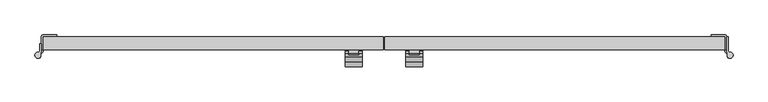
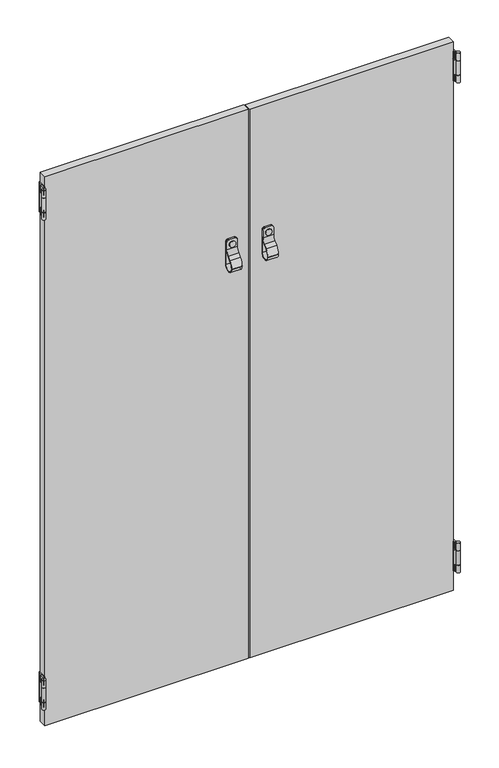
"""IFC4 building model written with IfcOpenShell, lengths in millimetres: furniture geometry, SmithSystem_AM_Storage_Education_Constellate_Stacking_DoubleMidCluster : Upper Cubbies + Lower Cubbies."""

from ifc_helpers import new_model, si_unit, point, frame, frame_2d, origin, place, context, project, spatial, polyline, circle_curve, trimmed, segment, composite_curve, outline, extrude, source, transform, mapped, element, save
from ifc_brep_helpers import plane_surface, cylinder_surface, revolved_surface, advanced_brep


def furniture_b4e8a946(model_context):
    return source(origin(), model_context, "Body", "SolidModel", [
        advanced_brep(
        [(-57.15, -247.65, 1098.55), (-31.75, -247.65, 1098.55), (-31.75, -247.65, 1138.1907684), (-57.15, -247.65, 1138.1907684), (-31.75, -245.11, 1098.55), (-57.15, -245.11, 1098.55), (-57.15, -245.11, 1156.97), (-52.07, -245.11, 1162.05), (-36.83, -245.11, 1162.05), (-31.75, -245.11, 1156.97), (-57.15, -267.97, 1099.4589755), (-31.75, -267.97, 1099.4589755), (-31.75, -267.97, 1098.55), (-57.15, -267.97, 1098.55), (-31.75, -270.51, 1099.4589755), (-57.15, -270.51, 1099.4589755), (-57.15, -270.51, 1098.55), (-31.75, -270.51, 1098.55), (-31.75, -247.65, 1156.97), (-31.75, -250.19, 1156.97), (-31.75, -250.19, 1138.1907684), (-31.75, -255.7696158, 1124.7203842), (-31.75, -263.0705122, 1117.4194878), (-31.75, -261.274461, 1115.6234365), (-31.75, -253.9735646, 1122.924333), (-57.15, -250.19, 1156.97), (-57.15, -247.65, 1156.97), (-57.15, -263.0705122, 1117.4194878), (-57.15, -255.7696158, 1124.7203842), (-57.15, -250.19, 1138.1907684), (-57.15, -253.9735646, 1122.924333), (-57.15, -261.274461, 1115.6234365), (-36.83, -250.19, 1162.05), (-52.07, -250.19, 1162.05), (-36.83, -247.65, 1162.05), (-52.07, -247.65, 1162.05)],
        [
            (0, 1),
            (1, 2),
            (2, 3),
            (3, 0),
            (4, 5),
            (5, 6),
            (6, 7, circle_curve(frame((-52.07, -245.11, 1156.97), z_axis=(0.0, 1.0, 0.0), x_axis=(1.0, 0.0, 0.0)), 5.08)),
            (7, 8),
            (8, 9, circle_curve(frame((-36.83, -245.11, 1156.97), z_axis=(0.0, 1.0, 0.0), x_axis=(1.0, 0.0, 0.0)), 5.08)),
            (9, 4),
            (10, 11),
            (11, 12),
            (12, 13),
            (13, 10),
            (14, 15),
            (15, 16),
            (16, 17),
            (17, 14),
            (0, 13, circle_curve(frame((-57.15, -257.81, 1098.55), z_axis=(-1.0, 0.0, 0.0), x_axis=(0.0, -1.0, 0.0)), 10.16)),
            (12, 1, circle_curve(frame((-31.75, -257.81, 1098.55), z_axis=(1.0, 0.0, 0.0), x_axis=(0.0, -1.0, 0.0)), 10.16)),
            (4, 17, circle_curve(frame((-31.75, -257.81, 1098.55), z_axis=(-1.0, 0.0, 0.0), x_axis=(0.0, -1.0, 0.0)), 12.7)),
            (16, 5, circle_curve(frame((-57.15, -257.81, 1098.55), z_axis=(1.0, 0.0, 0.0), x_axis=(0.0, -1.0, 0.0)), 12.7)),
            (9, 18),
            (18, 19),
            (19, 20),
            (20, 21, circle_curve(frame((-31.75, -269.24, 1138.1907684), z_axis=(-1.0, 0.0, 0.0), x_axis=(0.0, 1.0, 0.0)), 19.05)),
            (21, 22),
            (22, 14, circle_curve(frame((-31.75, -245.11, 1099.4589755), z_axis=(1.0, 0.0, 0.0), x_axis=(0.0, -0.7071067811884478, 0.7071067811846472)), 25.4)),
            (11, 23, circle_curve(frame((-31.75, -245.11, 1099.4589755), z_axis=(-1.0, 0.0, 0.0), x_axis=(0.0, -0.7071067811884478, 0.7071067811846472)), 22.86)),
            (23, 24),
            (24, 2, circle_curve(frame((-31.75, -269.24, 1138.1907684), z_axis=(1.0, 0.0, 0.0), x_axis=(0.0, 1.0, 0.0)), 21.59)),
            (25, 26),
            (26, 6),
            (15, 27, circle_curve(frame((-57.15, -245.11, 1099.4589755), z_axis=(-1.0, 0.0, 0.0), x_axis=(0.0, -0.7071067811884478, 0.7071067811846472)), 25.4)),
            (27, 28),
            (28, 29, circle_curve(frame((-57.15, -269.24, 1138.1907684), z_axis=(1.0, 0.0, 0.0), x_axis=(0.0, 1.0, 0.0)), 19.05)),
            (29, 25),
            (3, 30, circle_curve(frame((-57.15, -269.24, 1138.1907684), z_axis=(-1.0, 0.0, 0.0), x_axis=(0.0, 1.0, 0.0)), 21.59)),
            (30, 31),
            (31, 10, circle_curve(frame((-57.15, -245.11, 1099.4589755), z_axis=(1.0, 0.0, 0.0), x_axis=(0.0, -0.7071067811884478, 0.7071067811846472)), 22.86)),
            (29, 20),
            (19, 32, circle_curve(frame((-36.83, -250.19, 1156.97), z_axis=(0.0, -1.0, 0.0), x_axis=(1.0, 0.0, 0.0)), 5.08)),
            (32, 33),
            (33, 25, circle_curve(frame((-52.07, -250.19, 1156.97), z_axis=(0.0, -1.0, 0.0), x_axis=(1.0, 0.0, 0.0)), 5.08)),
            (24, 30),
            (28, 21),
            (23, 31),
            (27, 22),
            (18, 34, circle_curve(frame((-36.83, -247.65, 1156.97), z_axis=(0.0, -1.0, 0.0), x_axis=(1.0, 0.0, 0.0)), 5.08)),
            (34, 32),
            (34, 8),
            (7, 35),
            (35, 33),
            (35, 26, circle_curve(frame((-52.07, -247.65, 1156.97), z_axis=(0.0, -1.0, 0.0), x_axis=(1.0, 0.0, 0.0)), 5.08)),
        ],
        [
            plane_surface(frame((-31.75, -247.65, 1098.55), z_axis=(0.0, -1.0, 0.0), x_axis=(0.0, 0.0, 1.0))),
            plane_surface(frame((-57.15, -245.11, 1098.55), z_axis=(0.0, 1.0, 0.0), x_axis=(0.0, 0.0, 1.0))),
            plane_surface(frame((-31.75, -267.97, 1099.4589755), z_axis=(0.0, 1.0, 0.0), x_axis=(0.0, 0.0, -1.0))),
            plane_surface(frame((-57.15, -270.51, 1099.4589755), z_axis=(0.0, -1.0, 0.0), x_axis=(0.0, 0.0, -1.0))),
            revolved_surface(polyline([(-31.75, -267.97, 1098.55), (-57.15, -267.97, 1098.55)]), (0.0, -257.81, 1098.55), (1.0, 0.0, 0.0)),
            cylinder_surface(frame((0.0, -257.81, 1098.55), z_axis=(1.0, 0.0, 0.0), x_axis=(0.0, -1.0, 0.0)), 12.7),
            plane_surface(frame((-31.75, -250.19, 1149.35), z_axis=(1.0, 0.0, 0.0), x_axis=(0.0, 0.0, -1.0))),
            plane_surface(frame((-57.15, -247.65, 1149.35), z_axis=(-1.0, 0.0, 0.0), x_axis=(0.0, 0.0, -1.0))),
            plane_surface(frame((-57.15, -250.19, 1149.35), z_axis=(0.0, -1.0, 0.0), x_axis=(0.0, 0.0, -1.0))),
            cylinder_surface(frame((0.0, -269.24, 1138.1907684), z_axis=(-1.0, 0.0, 0.0), x_axis=(0.0, 1.0, 0.0)), 21.59),
            revolved_surface(polyline([(-57.15, -250.19, 1138.1907684), (-31.75, -250.19, 1138.1907684)]), (0.0, -269.24, 1138.1907684), (-1.0, 0.0, 0.0)),
            plane_surface(frame((-31.75, -253.9735646, 1122.924333), z_axis=(0.0, 0.7071067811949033, -0.7071067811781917), x_axis=(0.0, -0.7071067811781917, -0.7071067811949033))),
            plane_surface(frame((-57.15, -255.7696158, 1124.7203842), z_axis=(0.0, -0.7071067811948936, 0.7071067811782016), x_axis=(0.0, -0.7071067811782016, -0.7071067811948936))),
            revolved_surface(polyline([(-31.75, -261.27446101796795, 1115.623436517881), (-57.15, -261.27446101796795, 1115.623436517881)]), (0.0, -245.11, 1099.4589755), (1.0, 0.0, 0.0)),
            cylinder_surface(frame((0.0, -245.11, 1099.4589755), z_axis=(1.0, 0.0, 0.0), x_axis=(0.0, -0.7071067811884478, 0.7071067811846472)), 25.4),
            cylinder_surface(frame((-36.83, -245.11, 1156.97), z_axis=(0.0, -1.0, 0.0), x_axis=(1.0, 0.0, 0.0)), 5.08),
            plane_surface(frame((-36.83, -250.19, 1162.05), z_axis=(1.0835776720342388e-12, 0.0, 1.0), x_axis=(0.0, 1.0, 0.0))),
            cylinder_surface(frame((-52.07, -245.11, 1156.97), z_axis=(0.0, -1.0, 0.0), x_axis=(1.0, 0.0, 0.0)), 5.08),
        ],
        [
            (0, [[1, 2, 3, 4]]),
            (1, [[5, 6, 7, 8, 9, 10]]),
            (2, [[11, 12, 13, 14]]),
            (3, [[15, 16, 17, 18]]),
            (4, [[-1, 19, -13, 20]]),
            (5, [[-5, 21, -17, 22]]),
            (6, [[-10, 23, 24, 25, 26, 27, 28, -18, -21], [-2, -20, -12, 29, 30, 31]]),
            (7, [[32, 33, -6, -22, -16, 34, 35, 36, 37], [-4, 38, 39, 40, -14, -19]]),
            (8, [[41, -25, 42, 43, 44, -37]]),
            (9, [[-31, 45, -38, -3]]),
            (10, [[-26, -41, -36, 46]]),
            (11, [[-30, 47, -39, -45]]),
            (12, [[-27, -46, -35, 48]]),
            (13, [[-11, -40, -47, -29]]),
            (14, [[-15, -28, -48, -34]]),
            (15, [[-42, -24, 49, 50]]),
            (16, [[-43, -50, 51, -8, 52, 53]]),
            (17, [[-44, -53, 54, -32]]),
            (15, [[-9, -51, -49, -23]]),
            (17, [[-7, -33, -54, -52]]),
        ],
    ),
        advanced_brep(
        [(57.15, -247.65, 1138.1907684), (31.75, -247.65, 1138.1907684), (31.75, -247.65, 1098.55), (57.15, -247.65, 1098.55), (31.75, -245.11, 1156.97), (36.83, -245.11, 1162.05), (52.07, -245.11, 1162.05), (57.15, -245.11, 1156.97), (57.15, -245.11, 1098.55), (31.75, -245.11, 1098.55), (31.75, -267.97, 1099.4589755), (57.15, -267.97, 1099.4589755), (57.15, -267.97, 1098.55), (31.75, -267.97, 1098.55), (57.15, -270.51, 1099.4589755), (31.75, -270.51, 1099.4589755), (31.75, -270.51, 1098.55), (57.15, -270.51, 1098.55), (31.75, -250.19, 1138.1907684), (57.15, -250.19, 1138.1907684), (57.15, -250.19, 1156.97), (52.07, -250.19, 1162.05), (36.83, -250.19, 1162.05), (31.75, -250.19, 1156.97), (57.15, -247.65, 1156.97), (57.15, -255.7696158, 1124.7203842), (57.15, -263.0705122, 1117.4194878), (57.15, -261.274461, 1115.6234365), (57.15, -253.9735646, 1122.924333), (31.75, -247.65, 1156.97), (31.75, -263.0705122, 1117.4194878), (31.75, -255.7696158, 1124.7203842), (31.75, -253.9735646, 1122.924333), (31.75, -261.274461, 1115.6234365), (52.07, -247.65, 1162.05), (36.83, -247.65, 1162.05)],
        [
            (0, 1),
            (1, 2),
            (2, 3),
            (3, 0),
            (4, 5, circle_curve(frame((36.83, -245.11, 1156.97), z_axis=(0.0, 1.0, 0.0), x_axis=(1.0, 0.0, 0.0)), 5.08)),
            (5, 6),
            (6, 7, circle_curve(frame((52.07, -245.11, 1156.97), z_axis=(0.0, 1.0, 0.0), x_axis=(1.0, 0.0, 0.0)), 5.08)),
            (7, 8),
            (8, 9),
            (9, 4),
            (10, 11),
            (11, 12),
            (12, 13),
            (13, 10),
            (14, 15),
            (15, 16),
            (16, 17),
            (17, 14),
            (2, 13, circle_curve(frame((31.75, -257.81, 1098.55), z_axis=(-1.0, 0.0, 0.0), x_axis=(0.0, -1.0, 0.0)), 10.16)),
            (12, 3, circle_curve(frame((57.15, -257.81, 1098.55), z_axis=(1.0, 0.0, 0.0), x_axis=(0.0, -1.0, 0.0)), 10.16)),
            (8, 17, circle_curve(frame((57.15, -257.81, 1098.55), z_axis=(-1.0, 0.0, 0.0), x_axis=(0.0, -1.0, 0.0)), 12.7)),
            (16, 9, circle_curve(frame((31.75, -257.81, 1098.55), z_axis=(1.0, 0.0, 0.0), x_axis=(0.0, -1.0, 0.0)), 12.7)),
            (18, 19),
            (19, 20),
            (20, 21, circle_curve(frame((52.07, -250.19, 1156.97), z_axis=(0.0, -1.0, 0.0), x_axis=(1.0, 0.0, 0.0)), 5.08)),
            (21, 22),
            (22, 23, circle_curve(frame((36.83, -250.19, 1156.97), z_axis=(0.0, -1.0, 0.0), x_axis=(1.0, 0.0, 0.0)), 5.08)),
            (23, 18),
            (7, 24),
            (24, 20),
            (19, 25, circle_curve(frame((57.15, -269.24, 1138.1907684), z_axis=(-1.0, 0.0, 0.0), x_axis=(0.0, 1.0, 0.0)), 19.05)),
            (25, 26),
            (26, 14, circle_curve(frame((57.15, -245.11, 1099.4589755), z_axis=(1.0, 0.0, 0.0), x_axis=(0.0, -0.7071067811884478, 0.7071067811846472)), 25.4)),
            (11, 27, circle_curve(frame((57.15, -245.11, 1099.4589755), z_axis=(-1.0, 0.0, 0.0), x_axis=(0.0, -0.7071067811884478, 0.7071067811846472)), 22.86)),
            (27, 28),
            (28, 0, circle_curve(frame((57.15, -269.24, 1138.1907684), z_axis=(1.0, 0.0, 0.0), x_axis=(0.0, 1.0, 0.0)), 21.59)),
            (23, 29),
            (29, 4),
            (15, 30, circle_curve(frame((31.75, -245.11, 1099.4589755), z_axis=(-1.0, 0.0, 0.0), x_axis=(0.0, -0.7071067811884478, 0.7071067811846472)), 25.4)),
            (30, 31),
            (31, 18, circle_curve(frame((31.75, -269.24, 1138.1907684), z_axis=(1.0, 0.0, 0.0), x_axis=(0.0, 1.0, 0.0)), 19.05)),
            (1, 32, circle_curve(frame((31.75, -269.24, 1138.1907684), z_axis=(-1.0, 0.0, 0.0), x_axis=(0.0, 1.0, 0.0)), 21.59)),
            (32, 33),
            (33, 10, circle_curve(frame((31.75, -245.11, 1099.4589755), z_axis=(1.0, 0.0, 0.0), x_axis=(0.0, -0.7071067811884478, 0.7071067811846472)), 22.86)),
            (28, 32),
            (31, 25),
            (27, 33),
            (30, 26),
            (21, 34),
            (34, 6),
            (5, 35),
            (35, 22),
            (35, 29, circle_curve(frame((36.83, -247.65, 1156.97), z_axis=(0.0, -1.0, 0.0), x_axis=(1.0, 0.0, 0.0)), 5.08)),
            (24, 34, circle_curve(frame((52.07, -247.65, 1156.97), z_axis=(0.0, -1.0, 0.0), x_axis=(1.0, 0.0, 0.0)), 5.08)),
        ],
        [
            plane_surface(frame((-31.75, -247.65, 1098.55), z_axis=(0.0, -1.0, 0.0), x_axis=(0.0, 0.0, 1.0))),
            plane_surface(frame((-57.15, -245.11, 1098.55), z_axis=(0.0, 1.0, 0.0), x_axis=(0.0, 0.0, 1.0))),
            plane_surface(frame((57.15, -267.97, 1099.4589755), z_axis=(0.0, 1.0, 0.0), x_axis=(0.0, 0.0, -1.0))),
            plane_surface(frame((31.75, -270.51, 1099.4589755), z_axis=(0.0, -1.0, 0.0), x_axis=(0.0, 0.0, -1.0))),
            revolved_surface(polyline([(57.15, -267.97, 1098.55), (31.75, -267.97, 1098.55)]), (0.0, -257.81, 1098.55), (1.0, 0.0, 0.0)),
            cylinder_surface(frame((0.0, -257.81, 1098.55), z_axis=(1.0, 0.0, 0.0), x_axis=(0.0, -1.0, 0.0)), 12.7),
            plane_surface(frame((-57.15, -250.19, 1149.35), z_axis=(0.0, -1.0, 0.0), x_axis=(0.0, 0.0, -1.0))),
            plane_surface(frame((57.15, -250.19, 1149.35), z_axis=(1.0, 0.0, 0.0), x_axis=(0.0, 0.0, -1.0))),
            plane_surface(frame((31.75, -247.65, 1149.35), z_axis=(-1.0, 0.0, 0.0), x_axis=(0.0, 0.0, -1.0))),
            cylinder_surface(frame((0.0, -269.24, 1138.1907684), z_axis=(-1.0, 0.0, 0.0), x_axis=(0.0, 1.0, 0.0)), 21.59),
            revolved_surface(polyline([(31.75, -250.19, 1138.1907684), (57.15, -250.19, 1138.1907684)]), (0.0, -269.24, 1138.1907684), (-1.0, 0.0, 0.0)),
            plane_surface(frame((57.15, -253.9735646, 1122.924333), z_axis=(0.0, 0.7071067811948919, -0.7071067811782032), x_axis=(0.0, -0.7071067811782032, -0.7071067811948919))),
            plane_surface(frame((31.75, -255.7696158, 1124.7203842), z_axis=(0.0, -0.7071067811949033, 0.7071067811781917), x_axis=(0.0, -0.7071067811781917, -0.7071067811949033))),
            revolved_surface(polyline([(57.15, -261.27446101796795, 1115.623436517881), (31.75, -261.27446101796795, 1115.623436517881)]), (0.0, -245.11, 1099.4589755), (1.0, 0.0, 0.0)),
            cylinder_surface(frame((0.0, -245.11, 1099.4589755), z_axis=(1.0, 0.0, 0.0), x_axis=(0.0, -0.7071067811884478, 0.7071067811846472)), 25.4),
            plane_surface(frame((52.07, -250.19, 1162.05), z_axis=(0.0, 0.0, 1.0), x_axis=(0.0, 1.0, 0.0))),
            cylinder_surface(frame((36.83, -247.65, 1156.97), z_axis=(0.0, -1.0, 0.0), x_axis=(1.0, 0.0, 0.0)), 5.08),
            cylinder_surface(frame((52.07, -247.65, 1156.97), z_axis=(0.0, -1.0, 0.0), x_axis=(1.0, 0.0, 0.0)), 5.08),
            cylinder_surface(frame((52.07, -245.11, 1156.97), z_axis=(0.0, -1.0, 0.0), x_axis=(1.0, 0.0, 0.0)), 5.08),
            cylinder_surface(frame((36.83, -245.11, 1156.97), z_axis=(0.0, -1.0, 0.0), x_axis=(1.0, 0.0, 0.0)), 5.08),
        ],
        [
            (0, [[1, 2, 3, 4]]),
            (1, [[5, 6, 7, 8, 9, 10]]),
            (2, [[11, 12, 13, 14]]),
            (3, [[15, 16, 17, 18]]),
            (4, [[-3, 19, -13, 20]]),
            (5, [[-9, 21, -17, 22]]),
            (6, [[23, 24, 25, 26, 27, 28]]),
            (7, [[-8, 29, 30, -24, 31, 32, 33, -18, -21], [-4, -20, -12, 34, 35, 36]]),
            (8, [[37, 38, -10, -22, -16, 39, 40, 41, -28], [-2, 42, 43, 44, -14, -19]]),
            (9, [[-36, 45, -42, -1]]),
            (10, [[-31, -23, -41, 46]]),
            (11, [[-35, 47, -43, -45]]),
            (12, [[-32, -46, -40, 48]]),
            (13, [[-11, -44, -47, -34]]),
            (14, [[-15, -33, -48, -39]]),
            (15, [[-26, 49, 50, -6, 51, 52]]),
            (16, [[-27, -52, 53, -37]]),
            (17, [[-25, -30, 54, -49]]),
            (18, [[-7, -50, -54, -29]]),
            (19, [[-5, -38, -53, -51]]),
        ],
    ),
        advanced_brep(
        [(-505.46, -247.65, 1377.95), (-505.46, -236.22, 1377.95), (-502.92, -236.22, 1377.95), (-502.92, -247.65, 1377.95), (-504.444, -250.698, 1377.95), (-508.0, -248.92, 1377.95), (-506.73, -248.92, 1377.95), (-505.46, -247.65, 1397.0), (-506.73, -248.92, 1397.0), (-508.0, -248.92, 1397.0), (-504.444, -250.698, 1397.0), (-502.92, -247.65, 1397.0), (-502.92, -236.22, 1397.0), (-505.46, -236.22, 1397.0)],
        [
            (0, 1),
            (1, 2),
            (2, 3),
            (3, 4, circle_curve(frame((-506.73, -247.65, 1377.95), z_axis=(0.0, 0.0, -1.0), x_axis=(0.0, 1.0, 0.0)), 3.81)),
            (4, 5, circle_curve(frame((-508.0, -253.365, 1377.95), z_axis=(0.0, 0.0, -1.0), x_axis=(0.0, 1.0, 0.0)), 4.445)),
            (5, 6),
            (6, 0, circle_curve(frame((-506.73, -247.65, 1377.95), z_axis=(0.0, 0.0, 1.0), x_axis=(0.0, 1.0, 0.0)), 1.27)),
            (7, 8, circle_curve(frame((-506.73, -247.65, 1397.0), z_axis=(0.0, 0.0, -1.0), x_axis=(0.0, 1.0, 0.0)), 1.27)),
            (8, 9),
            (9, 10, circle_curve(frame((-508.0, -253.365, 1397.0), z_axis=(0.0, 0.0, 1.0), x_axis=(0.0, 1.0, 0.0)), 4.445)),
            (10, 11, circle_curve(frame((-506.73, -247.65, 1397.0), z_axis=(0.0, 0.0, 1.0), x_axis=(0.0, 1.0, 0.0)), 3.81)),
            (11, 12),
            (12, 13),
            (13, 7),
            (2, 12),
            (11, 3),
            (1, 13),
            (0, 7),
            (6, 8),
            (5, 9),
            (4, 10),
        ],
        [
            plane_surface(frame((-505.46, -236.22, 1377.95), z_axis=(0.0, 0.0, -1.0), x_axis=(0.0, 1.0, 0.0))),
            plane_surface(frame((-505.46, -236.22, 1397.0), z_axis=(0.0, 0.0, 1.0), x_axis=(0.0, -1.0, 0.0))),
            plane_surface(frame((-502.92, -236.22, 1377.95), z_axis=(1.0, 0.0, 0.0), x_axis=(0.0, 0.0, 1.0))),
            plane_surface(frame((-505.46, -236.22, 1377.95), z_axis=(0.0, 1.0, 0.0), x_axis=(0.0, 0.0, 1.0))),
            plane_surface(frame((-505.46, -247.65, 1377.95), z_axis=(-1.0, 0.0, 0.0), x_axis=(0.0, 0.0, 1.0))),
            revolved_surface(polyline([(-506.73, -246.38, 1397.0), (-506.73, -246.38, 1377.95)]), (-506.73, -247.65, 1397.0), (0.0, 0.0, 1.0)),
            plane_surface(frame((-508.0, -248.92, 1377.95), z_axis=(0.0, 1.0, 0.0), x_axis=(0.0, 0.0, 1.0))),
            cylinder_surface(frame((-508.0, -253.365, 1397.0), z_axis=(0.0, 0.0, -1.0), x_axis=(0.0, 1.0, 0.0)), 4.445),
            cylinder_surface(frame((-506.73, -247.65, 1397.0), z_axis=(0.0, 0.0, -1.0), x_axis=(0.0, 1.0, 0.0)), 3.81),
        ],
        [
            (0, [[1, 2, 3, 4, 5, 6, 7]]),
            (1, [[8, 9, 10, 11, 12, 13, 14]]),
            (2, [[-3, 15, -12, 16]]),
            (3, [[-2, 17, -13, -15]]),
            (4, [[-1, 18, -14, -17]]),
            (5, [[-7, 19, -8, -18]]),
            (6, [[-6, 20, -9, -19]]),
            (7, [[-5, 21, -10, -20]]),
            (8, [[-4, -16, -11, -21]]),
        ],
    ),
        advanced_brep(
        [(504.444, -250.698, 1377.95), (502.92, -247.65, 1377.95), (502.92, -226.06, 1377.95), (505.46, -226.06, 1377.95), (505.46, -247.65, 1377.95), (506.73, -248.92, 1377.95), (508.0, -248.92, 1377.95), (504.444, -250.698, 1397.0), (508.0, -248.92, 1397.0), (506.73, -248.92, 1397.0), (505.46, -247.65, 1397.0), (505.46, -245.11, 1397.0), (502.92, -245.11, 1397.0), (502.92, -247.65, 1397.0), (505.46, -226.06, 1454.15), (505.46, -247.65, 1454.15), (505.46, -247.65, 1435.1), (505.46, -245.11, 1435.1), (502.92, -245.11, 1435.1), (502.92, -247.65, 1435.1), (502.92, -247.65, 1454.15), (502.92, -226.06, 1454.15), (504.444, -250.698, 1454.15), (508.0, -248.92, 1454.15), (506.73, -248.92, 1454.15), (506.73, -248.92, 1435.1), (508.0, -248.92, 1435.1), (504.444, -250.698, 1435.1)],
        [
            (0, 1, circle_curve(frame((506.73, -247.65, 1377.95), z_axis=(0.0, 0.0, -1.0), x_axis=(0.0, 1.0, 0.0)), 3.81)),
            (1, 2),
            (2, 3),
            (3, 4),
            (4, 5, circle_curve(frame((506.73, -247.65, 1377.95), z_axis=(0.0, 0.0, 1.0), x_axis=(0.0, 1.0, 0.0)), 1.27)),
            (5, 6),
            (6, 0, circle_curve(frame((508.0, -253.365, 1377.95), z_axis=(0.0, 0.0, -1.0), x_axis=(0.0, 1.0, 0.0)), 4.445)),
            (7, 8, circle_curve(frame((508.0, -253.365, 1397.0), z_axis=(0.0, 0.0, 1.0), x_axis=(0.0, 1.0, 0.0)), 4.445)),
            (8, 9),
            (9, 10, circle_curve(frame((506.73, -247.65, 1397.0), z_axis=(0.0, 0.0, -1.0), x_axis=(0.0, 1.0, 0.0)), 1.27)),
            (10, 11),
            (11, 12),
            (12, 13),
            (13, 7, circle_curve(frame((506.73, -247.65, 1397.0), z_axis=(0.0, 0.0, 1.0), x_axis=(0.0, 1.0, 0.0)), 3.81)),
            (5, 9),
            (8, 6),
            (4, 10),
            (3, 14),
            (14, 15),
            (15, 16),
            (16, 17),
            (17, 11),
            (1, 13),
            (12, 18),
            (18, 19),
            (19, 20),
            (20, 21),
            (21, 2),
            (7, 0),
            (20, 22, circle_curve(frame((506.73, -247.65, 1454.15), z_axis=(0.0, 0.0, 1.0), x_axis=(0.0, 1.0, 0.0)), 3.81)),
            (22, 23, circle_curve(frame((508.0, -253.365, 1454.15), z_axis=(0.0, 0.0, 1.0), x_axis=(0.0, 1.0, 0.0)), 4.445)),
            (23, 24),
            (24, 15, circle_curve(frame((506.73, -247.65, 1454.15), z_axis=(0.0, 0.0, -1.0), x_axis=(0.0, 1.0, 0.0)), 1.27)),
            (14, 21),
            (16, 25, circle_curve(frame((506.73, -247.65, 1435.1), z_axis=(0.0, 0.0, 1.0), x_axis=(0.0, 1.0, 0.0)), 1.27)),
            (25, 26),
            (26, 27, circle_curve(frame((508.0, -253.365, 1435.1), z_axis=(0.0, 0.0, -1.0), x_axis=(0.0, 1.0, 0.0)), 4.445)),
            (27, 19, circle_curve(frame((506.73, -247.65, 1435.1), z_axis=(0.0, 0.0, -1.0), x_axis=(0.0, 1.0, 0.0)), 3.81)),
            (18, 17),
            (23, 26),
            (25, 24),
            (22, 27),
        ],
        [
            plane_surface(frame((-505.46, -236.22, 1377.95), z_axis=(0.0, 0.0, -1.0), x_axis=(0.0, 1.0, 0.0))),
            plane_surface(frame((-505.46, -236.22, 1397.0), z_axis=(0.0, 0.0, 1.0), x_axis=(0.0, -1.0, 0.0))),
            plane_surface(frame((506.73, -248.92, 1377.95), z_axis=(0.0, 1.0, 0.0), x_axis=(0.0, 0.0, 1.0))),
            revolved_surface(polyline([(506.73, -246.38, 1397.0), (506.73, -246.38, 1377.95)]), (506.73, -247.65, 1377.95), (0.0, 0.0, 1.0)),
            plane_surface(frame((505.46, -236.22, 1377.95), z_axis=(1.0, 0.0, 0.0), x_axis=(0.0, 0.0, 1.0))),
            plane_surface(frame((502.92, -247.65, 1377.95), z_axis=(-1.0, 0.0, 0.0), x_axis=(0.0, 0.0, 1.0))),
            cylinder_surface(frame((508.0, -253.365, 1377.95), z_axis=(0.0, 0.0, -1.0), x_axis=(0.0, 1.0, 0.0)), 4.445),
            plane_surface(frame((-508.0, -248.92, 1454.15), z_axis=(0.0, 0.0, 1.0), x_axis=(-1.0, 0.0, 0.0))),
            plane_surface(frame((-508.0, -248.92, 1435.1), z_axis=(0.0, 0.0, -1.0), x_axis=(1.0, 0.0, 0.0))),
            plane_surface(frame((506.73, -248.92, 1435.1), z_axis=(0.0, 1.0, 0.0), x_axis=(0.0, 0.0, 1.0))),
            revolved_surface(polyline([(506.73, -246.38, 1454.15), (506.73, -246.38, 1435.1)]), (506.73, -247.65, 1377.95), (0.0, 0.0, 1.0)),
            plane_surface(frame((505.46, -226.06, 1377.95), z_axis=(0.0, 1.0, 0.0), x_axis=(-1.0, 0.0, 0.0))),
            plane_surface(frame((505.46, -245.11, 1454.15), z_axis=(0.0, -1.0, 0.0), x_axis=(-1.0, 0.0, 0.0))),
            cylinder_surface(frame((506.73, -247.65, 1377.95), z_axis=(0.0, 0.0, -1.0), x_axis=(0.0, 1.0, 0.0)), 3.81),
        ],
        [
            (0, [[1, 2, 3, 4, 5, 6, 7]]),
            (1, [[8, 9, 10, 11, 12, 13, 14]]),
            (2, [[-6, 15, -9, 16]]),
            (3, [[-5, 17, -10, -15]]),
            (4, [[-17, -4, 18, 19, 20, 21, 22, -11]]),
            (5, [[-2, 23, -13, 24, 25, 26, 27, 28]]),
            (6, [[-7, -16, -8, 29]]),
            (7, [[-27, 30, 31, 32, 33, -19, 34]]),
            (8, [[35, 36, 37, 38, -25, 39, -21]]),
            (9, [[-32, 40, -36, 41]]),
            (10, [[-33, -41, -35, -20]]),
            (6, [[-31, 42, -37, -40]]),
            (11, [[-28, -34, -18, -3]]),
            (12, [[-24, -12, -22, -39]]),
            (13, [[-30, -26, -38, -42]]),
            (13, [[-1, -29, -14, -23]]),
        ],
    ),
        advanced_brep(
        [(505.46, -226.06, 107.95), (505.46, -226.06, 184.15), (505.46, -247.65, 184.15), (505.46, -247.65, 165.1), (505.46, -245.11, 165.1), (505.46, -245.11, 127.0), (505.46, -247.65, 127.0), (505.46, -247.65, 107.95), (502.92, -226.06, 184.15), (502.92, -226.06, 107.95), (502.92, -247.65, 107.95), (502.92, -247.65, 127.0), (502.92, -245.11, 127.0), (502.92, -245.11, 165.1), (502.92, -247.65, 165.1), (502.92, -247.65, 184.15), (504.444, -250.698, 184.15), (508.0, -248.92, 184.15), (506.73, -248.92, 184.15), (506.73, -248.92, 165.1), (508.0, -248.92, 165.1), (504.444, -250.698, 165.1), (504.444, -250.698, 127.0), (508.0, -248.92, 127.0), (506.73, -248.92, 127.0), (504.444, -250.698, 107.95), (506.73, -248.92, 107.95), (508.0, -248.92, 107.95)],
        [
            (0, 1),
            (1, 2),
            (2, 3),
            (3, 4),
            (4, 5),
            (5, 6),
            (6, 7),
            (7, 0),
            (8, 9),
            (9, 10),
            (10, 11),
            (11, 12),
            (12, 13),
            (13, 14),
            (14, 15),
            (15, 8),
            (15, 16, circle_curve(frame((506.73, -247.65, 184.15), z_axis=(0.0, 0.0, 1.0), x_axis=(1.0, 0.0, 0.0)), 3.81)),
            (16, 17, circle_curve(frame((508.0, -253.365, 184.15), z_axis=(0.0, 0.0, 1.0), x_axis=(1.0, 0.0, 0.0)), 4.445)),
            (17, 18),
            (18, 2, circle_curve(frame((506.73, -247.65, 184.15), z_axis=(0.0, 0.0, -1.0), x_axis=(1.0, 0.0, 0.0)), 1.27)),
            (1, 8),
            (3, 19, circle_curve(frame((506.73, -247.65, 165.1), z_axis=(0.0, 0.0, 1.0), x_axis=(1.0, 0.0, 0.0)), 1.27)),
            (19, 20),
            (20, 21, circle_curve(frame((508.0, -253.365, 165.1), z_axis=(0.0, 0.0, -1.0), x_axis=(1.0, 0.0, 0.0)), 4.445)),
            (21, 14, circle_curve(frame((506.73, -247.65, 165.1), z_axis=(0.0, 0.0, -1.0), x_axis=(1.0, 0.0, 0.0)), 3.81)),
            (13, 4),
            (22, 23, circle_curve(frame((508.0, -253.365, 127.0), z_axis=(0.0, 0.0, 1.0), x_axis=(1.0, 0.0, 0.0)), 4.445)),
            (23, 24),
            (24, 6, circle_curve(frame((506.73, -247.65, 127.0), z_axis=(0.0, 0.0, -1.0), x_axis=(1.0, 0.0, 0.0)), 1.27)),
            (5, 12),
            (11, 22, circle_curve(frame((506.73, -247.65, 127.0), z_axis=(0.0, 0.0, 1.0), x_axis=(1.0, 0.0, 0.0)), 3.81)),
            (25, 10, circle_curve(frame((506.73, -247.65, 107.95), z_axis=(0.0, 0.0, -1.0), x_axis=(1.0, 0.0, 0.0)), 3.81)),
            (9, 0),
            (7, 26, circle_curve(frame((506.73, -247.65, 107.95), z_axis=(0.0, 0.0, 1.0), x_axis=(1.0, 0.0, 0.0)), 1.27)),
            (26, 27),
            (27, 25, circle_curve(frame((508.0, -253.365, 107.95), z_axis=(0.0, 0.0, -1.0), x_axis=(1.0, 0.0, 0.0)), 4.445)),
            (23, 27),
            (26, 24),
            (22, 25),
            (21, 16),
            (20, 17),
            (19, 18),
        ],
        [
            plane_surface(frame((505.46, -236.22, 1377.95), z_axis=(1.0, 0.0, 0.0), x_axis=(0.0, 0.0, 1.0))),
            plane_surface(frame((502.92, -247.65, 1377.95), z_axis=(-1.0, 0.0, 0.0), x_axis=(0.0, 0.0, 1.0))),
            plane_surface(frame((-505.46, -247.65, 184.15), z_axis=(0.0, 0.0, 1.0), x_axis=(0.0, -1.0, 0.0))),
            plane_surface(frame((-505.46, -247.65, 165.1), z_axis=(0.0, 0.0, -1.0), x_axis=(0.0, 1.0, 0.0))),
            plane_surface(frame((-502.92, -247.65, 127.0), z_axis=(0.0, 0.0, 1.0), x_axis=(0.0, 1.0, 0.0))),
            plane_surface(frame((-502.92, -247.65, 107.95), z_axis=(0.0, 0.0, -1.0), x_axis=(0.0, -1.0, 0.0))),
            plane_surface(frame((508.0, -248.92, 127.0), z_axis=(0.0, 1.0, 0.0), x_axis=(0.0, 0.0, -1.0))),
            revolved_surface(polyline([(508.0, -247.65, 107.95), (508.0, -247.65, 127.0)]), (506.73, -247.65, 0.0), (0.0, 0.0, -1.0)),
            cylinder_surface(frame((508.0, -253.365, 0.0), z_axis=(0.0, 0.0, 1.0), x_axis=(1.0, 0.0, 0.0)), 4.445),
            cylinder_surface(frame((506.73, -247.65, 0.0), z_axis=(0.0, 0.0, 1.0), x_axis=(1.0, 0.0, 0.0)), 3.81),
            plane_surface(frame((508.0, -248.92, 184.15), z_axis=(0.0, 1.0, 0.0), x_axis=(0.0, 0.0, -1.0))),
            revolved_surface(polyline([(508.0, -247.65, 165.1), (508.0, -247.65, 184.15)]), (506.73, -247.65, 0.0), (0.0, 0.0, -1.0)),
            plane_surface(frame((505.46, -226.06, 107.95), z_axis=(0.0, 1.0, 0.0), x_axis=(-1.0, 0.0, 0.0))),
            plane_surface(frame((505.46, -245.11, 184.15), z_axis=(0.0, -1.0, 0.0), x_axis=(-1.0, 0.0, 0.0))),
        ],
        [
            (0, [[1, 2, 3, 4, 5, 6, 7, 8]]),
            (1, [[9, 10, 11, 12, 13, 14, 15, 16]]),
            (2, [[-16, 17, 18, 19, 20, -2, 21]]),
            (3, [[22, 23, 24, 25, -14, 26, -4]]),
            (4, [[27, 28, 29, -6, 30, -12, 31]]),
            (5, [[32, -10, 33, -8, 34, 35, 36]]),
            (6, [[-28, 37, -35, 38]]),
            (7, [[-29, -38, -34, -7]]),
            (8, [[-27, 39, -36, -37]]),
            (9, [[-17, -15, -25, 40]]),
            (8, [[-18, -40, -24, 41]]),
            (10, [[-19, -41, -23, 42]]),
            (11, [[-20, -42, -22, -3]]),
            (12, [[-9, -21, -1, -33]]),
            (13, [[-5, -26, -13, -30]]),
            (9, [[-31, -11, -32, -39]]),
        ],
    ),
        advanced_brep(
        [(-504.444, -250.698, 1454.15), (-502.92, -247.65, 1454.15), (-502.92, -236.22, 1454.15), (-505.46, -236.22, 1454.15), (-505.46, -247.65, 1454.15), (-506.73, -248.92, 1454.15), (-508.0, -248.92, 1454.15), (-504.444, -250.698, 1435.1), (-508.0, -248.92, 1435.1), (-506.73, -248.92, 1435.1), (-505.46, -247.65, 1435.1), (-505.46, -236.22, 1435.1), (-502.92, -236.22, 1435.1), (-502.92, -247.65, 1435.1)],
        [
            (0, 1, circle_curve(frame((-506.73, -247.65, 1454.15), z_axis=(0.0, 0.0, 1.0), x_axis=(0.0, 1.0, 0.0)), 3.81)),
            (1, 2),
            (2, 3),
            (3, 4),
            (4, 5, circle_curve(frame((-506.73, -247.65, 1454.15), z_axis=(0.0, 0.0, -1.0), x_axis=(0.0, 1.0, 0.0)), 1.27)),
            (5, 6),
            (6, 0, circle_curve(frame((-508.0, -253.365, 1454.15), z_axis=(0.0, 0.0, 1.0), x_axis=(0.0, 1.0, 0.0)), 4.445)),
            (7, 8, circle_curve(frame((-508.0, -253.365, 1435.1), z_axis=(0.0, 0.0, -1.0), x_axis=(0.0, 1.0, 0.0)), 4.445)),
            (8, 9),
            (9, 10, circle_curve(frame((-506.73, -247.65, 1435.1), z_axis=(0.0, 0.0, 1.0), x_axis=(0.0, 1.0, 0.0)), 1.27)),
            (10, 11),
            (11, 12),
            (12, 13),
            (13, 7, circle_curve(frame((-506.73, -247.65, 1435.1), z_axis=(0.0, 0.0, -1.0), x_axis=(0.0, 1.0, 0.0)), 3.81)),
            (6, 8),
            (7, 0),
            (1, 13),
            (12, 2),
            (11, 3),
            (10, 4),
            (9, 5),
        ],
        [
            plane_surface(frame((-508.0, -248.92, 1454.15), z_axis=(0.0, 0.0, 1.0), x_axis=(-1.0, 0.0, 0.0))),
            plane_surface(frame((-508.0, -248.92, 1435.1), z_axis=(0.0, 0.0, -1.0), x_axis=(1.0, 0.0, 0.0))),
            cylinder_surface(frame((-508.0, -253.365, 1454.15), z_axis=(0.0, 0.0, -1.0), x_axis=(0.0, 1.0, 0.0)), 4.445),
            plane_surface(frame((-502.92, -236.22, 1435.1), z_axis=(1.0, 1.0125233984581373e-12, 0.0), x_axis=(0.0, 0.0, 1.0))),
            plane_surface(frame((-505.46, -236.22, 1435.1), z_axis=(0.0, 1.0, 0.0), x_axis=(0.0, 0.0, 1.0))),
            plane_surface(frame((-505.46, -247.65, 1435.1), z_axis=(-1.0, 0.0, 0.0), x_axis=(0.0, 0.0, 1.0))),
            revolved_surface(polyline([(-506.73, -246.38, 1454.15), (-506.73, -246.38, 1435.1)]), (-506.73, -247.65, 1454.15), (0.0, 0.0, 1.0)),
            plane_surface(frame((-508.0, -248.92, 1435.1), z_axis=(0.0, 1.0, 0.0), x_axis=(0.0, 0.0, 1.0))),
            cylinder_surface(frame((-506.73, -247.65, 1454.15), z_axis=(0.0, 0.0, -1.0), x_axis=(0.0, 1.0, 0.0)), 3.81),
        ],
        [
            (0, [[1, 2, 3, 4, 5, 6, 7]]),
            (1, [[8, 9, 10, 11, 12, 13, 14]]),
            (2, [[-7, 15, -8, 16]]),
            (3, [[-2, 17, -13, 18]]),
            (4, [[-3, -18, -12, 19]]),
            (5, [[-4, -19, -11, 20]]),
            (6, [[-5, -20, -10, 21]]),
            (7, [[-6, -21, -9, -15]]),
            (8, [[-1, -16, -14, -17]]),
        ],
    ),
        advanced_brep(
        [(-505.46, -247.65, 184.15), (-506.73, -248.92, 184.15), (-508.0, -248.92, 184.15), (-504.444, -250.698, 184.15), (-502.92, -247.65, 184.15), (-502.92, -236.22, 184.15), (-505.46, -236.22, 184.15), (-505.46, -247.65, 165.1), (-505.46, -236.22, 165.1), (-502.92, -236.22, 165.1), (-502.92, -247.65, 165.1), (-504.444, -250.698, 165.1), (-508.0, -248.92, 165.1), (-506.73, -248.92, 165.1)],
        [
            (0, 1, circle_curve(frame((-506.73, -247.65, 184.15), z_axis=(0.0, 0.0, -1.0), x_axis=(1.0, 0.0, 0.0)), 1.27)),
            (1, 2),
            (2, 3, circle_curve(frame((-508.0, -253.365, 184.15), z_axis=(0.0, 0.0, 1.0), x_axis=(1.0, 0.0, 0.0)), 4.445)),
            (3, 4, circle_curve(frame((-506.73, -247.65, 184.15), z_axis=(0.0, 0.0, 1.0), x_axis=(1.0, 0.0, 0.0)), 3.81)),
            (4, 5),
            (5, 6),
            (6, 0),
            (7, 8),
            (8, 9),
            (9, 10),
            (10, 11, circle_curve(frame((-506.73, -247.65, 165.1), z_axis=(0.0, 0.0, -1.0), x_axis=(1.0, 0.0, 0.0)), 3.81)),
            (11, 12, circle_curve(frame((-508.0, -253.365, 165.1), z_axis=(0.0, 0.0, -1.0), x_axis=(1.0, 0.0, 0.0)), 4.445)),
            (12, 13),
            (13, 7, circle_curve(frame((-506.73, -247.65, 165.1), z_axis=(0.0, 0.0, 1.0), x_axis=(1.0, 0.0, 0.0)), 1.27)),
            (4, 10),
            (9, 5),
            (8, 6),
            (7, 0),
            (13, 1),
            (12, 2),
            (11, 3),
        ],
        [
            plane_surface(frame((-505.46, -247.65, 184.15), z_axis=(0.0, 0.0, 1.0), x_axis=(0.0, -1.0, 0.0))),
            plane_surface(frame((-505.46, -247.65, 165.1), z_axis=(0.0, 0.0, -1.0), x_axis=(0.0, 1.0, 0.0))),
            plane_surface(frame((-502.92, -247.65, 184.15), z_axis=(1.0, 0.0, 0.0), x_axis=(0.0, 0.0, -1.0))),
            plane_surface(frame((-502.92, -236.22, 184.15), z_axis=(-1.3056222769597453e-12, 1.0, 0.0), x_axis=(0.0, 0.0, -1.0))),
            plane_surface(frame((-505.46, -236.22, 184.15), z_axis=(-1.0, 0.0, 0.0), x_axis=(0.0, 0.0, -1.0))),
            revolved_surface(polyline([(-505.46000000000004, -247.65, 165.1), (-505.46000000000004, -247.65, 184.15)]), (-506.73, -247.65, 165.1), (0.0, 0.0, -1.0)),
            plane_surface(frame((-506.73, -248.92, 184.15), z_axis=(0.0, 1.0, 0.0), x_axis=(0.0, 0.0, -1.0))),
            cylinder_surface(frame((-508.0, -253.365, 165.1), z_axis=(0.0, 0.0, 1.0), x_axis=(1.0, 0.0, 0.0)), 4.445),
            cylinder_surface(frame((-506.73, -247.65, 165.1), z_axis=(0.0, 0.0, 1.0), x_axis=(1.0, 0.0, 0.0)), 3.81),
        ],
        [
            (0, [[1, 2, 3, 4, 5, 6, 7]]),
            (1, [[8, 9, 10, 11, 12, 13, 14]]),
            (2, [[-5, 15, -10, 16]]),
            (3, [[-6, -16, -9, 17]]),
            (4, [[-7, -17, -8, 18]]),
            (5, [[-1, -18, -14, 19]]),
            (6, [[-2, -19, -13, 20]]),
            (7, [[-3, -20, -12, 21]]),
            (8, [[-4, -21, -11, -15]]),
        ],
    ),
        advanced_brep(
        [(-504.444, -250.698, 127.0), (-502.92, -247.65, 127.0), (-502.92, -236.22, 127.0), (-505.46, -236.22, 127.0), (-505.46, -247.65, 127.0), (-506.73, -248.92, 127.0), (-508.0, -248.92, 127.0), (-504.444, -250.698, 107.95), (-508.0, -248.92, 107.95), (-506.73, -248.92, 107.95), (-505.46, -247.65, 107.95), (-505.46, -236.22, 107.95), (-502.92, -236.22, 107.95), (-502.92, -247.65, 107.95)],
        [
            (0, 1, circle_curve(frame((-506.73, -247.65, 127.0), z_axis=(0.0, 0.0, 1.0), x_axis=(1.0, 0.0, 0.0)), 3.81)),
            (1, 2),
            (2, 3),
            (3, 4),
            (4, 5, circle_curve(frame((-506.73, -247.65, 127.0), z_axis=(0.0, 0.0, -1.0), x_axis=(1.0, 0.0, 0.0)), 1.27)),
            (5, 6),
            (6, 0, circle_curve(frame((-508.0, -253.365, 127.0), z_axis=(0.0, 0.0, 1.0), x_axis=(1.0, 0.0, 0.0)), 4.445)),
            (7, 8, circle_curve(frame((-508.0, -253.365, 107.95), z_axis=(0.0, 0.0, -1.0), x_axis=(1.0, 0.0, 0.0)), 4.445)),
            (8, 9),
            (9, 10, circle_curve(frame((-506.73, -247.65, 107.95), z_axis=(0.0, 0.0, 1.0), x_axis=(1.0, 0.0, 0.0)), 1.27)),
            (10, 11),
            (11, 12),
            (12, 13),
            (13, 7, circle_curve(frame((-506.73, -247.65, 107.95), z_axis=(0.0, 0.0, -1.0), x_axis=(1.0, 0.0, 0.0)), 3.81)),
            (6, 8),
            (7, 0),
            (1, 13),
            (12, 2),
            (11, 3),
            (10, 4),
            (9, 5),
        ],
        [
            plane_surface(frame((-502.92, -247.65, 127.0), z_axis=(0.0, 0.0, 1.0), x_axis=(0.0, 1.0, 0.0))),
            plane_surface(frame((-502.92, -247.65, 107.95), z_axis=(0.0, 0.0, -1.0), x_axis=(0.0, -1.0, 0.0))),
            cylinder_surface(frame((-508.0, -253.365, 107.95), z_axis=(0.0, 0.0, 1.0), x_axis=(1.0, 0.0, 0.0)), 4.445),
            plane_surface(frame((-502.92, -247.65, 127.0), z_axis=(1.0, 1.3796371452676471e-12, 0.0), x_axis=(0.0, 0.0, -1.0))),
            plane_surface(frame((-502.92, -236.22, 127.0), z_axis=(-1.3056222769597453e-12, 1.0, 0.0), x_axis=(0.0, 0.0, -1.0))),
            plane_surface(frame((-505.46, -236.22, 127.0), z_axis=(-1.0, 0.0, 0.0), x_axis=(0.0, 0.0, -1.0))),
            revolved_surface(polyline([(-505.46000000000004, -247.65, 107.95), (-505.46000000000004, -247.65, 127.0)]), (-506.73, -247.65, 107.95), (0.0, 0.0, -1.0)),
            plane_surface(frame((-506.73, -248.92, 127.0), z_axis=(0.0, 1.0, 0.0), x_axis=(0.0, 0.0, -1.0))),
            cylinder_surface(frame((-506.73, -247.65, 107.95), z_axis=(0.0, 0.0, 1.0), x_axis=(1.0, 0.0, 0.0)), 3.81),
        ],
        [
            (0, [[1, 2, 3, 4, 5, 6, 7]]),
            (1, [[8, 9, 10, 11, 12, 13, 14]]),
            (2, [[-7, 15, -8, 16]]),
            (3, [[-2, 17, -13, 18]]),
            (4, [[-3, -18, -12, 19]]),
            (5, [[-4, -19, -11, 20]]),
            (6, [[-5, -20, -10, 21]]),
            (7, [[-6, -21, -9, -15]]),
            (8, [[-1, -16, -14, -17]]),
        ],
    ),
        extrude(outline(composite_curve([segment(polyline([(-500.38, -245.11), (-502.92, -245.11), (-502.92, -226.06)]), True, "CONTINUOUS"), segment(trimmed(circle_curve(frame_2d((-500.38, -226.06)), 2.54), [point((-502.92, -226.06))], [point((-500.38, -223.52))], False, "CARTESIAN"), True, "CONTINUOUS"), segment(polyline([(-500.38, -223.52), (-480.06, -223.52), (-480.06, -226.06), (-500.38, -226.06), (-500.38, -245.11)]), True, "CONTINUOUS")], self_intersect=False)), frame((0.0, 0.0, 1377.95), z_axis=(0.0, 0.0, 1.0), x_axis=(1.0, 0.0, 0.0)), (0.0, 0.0, 1.0), 76.2),
        extrude(outline(composite_curve([segment(polyline([(500.38, -245.11), (500.38, -226.06), (480.06, -226.06), (480.06, -223.52), (500.38, -223.52)]), True, "CONTINUOUS"), segment(trimmed(circle_curve(frame_2d((500.38, -226.06)), 2.54), [point((500.38, -223.52))], [point((502.92, -226.06))], False, "CARTESIAN"), True, "CONTINUOUS"), segment(polyline([(502.92, -226.06), (502.92, -245.11), (500.38, -245.11)]), True, "CONTINUOUS")], self_intersect=False)), frame((0.0, 0.0, 1377.95), z_axis=(0.0, 0.0, 1.0), x_axis=(1.0, 0.0, 0.0)), (0.0, 0.0, 1.0), 76.2),
        extrude(outline(composite_curve([segment(polyline([(-480.06, -226.06), (-500.38, -226.06), (-500.38, -245.11), (-502.92, -245.11), (-502.92, -226.06)]), True, "CONTINUOUS"), segment(trimmed(circle_curve(frame_2d((-500.38, -226.06)), 2.54), [point((-502.92, -226.06))], [point((-500.38, -223.52))], False, "CARTESIAN"), True, "CONTINUOUS"), segment(polyline([(-500.38, -223.52), (-480.06, -223.52), (-480.06, -226.06)]), True, "CONTINUOUS")], self_intersect=False)), frame((0.0, 0.0, 107.95), z_axis=(0.0, 0.0, 1.0), x_axis=(1.0, 0.0, 0.0)), (0.0, 0.0, 1.0), 76.2),
        extrude(outline(composite_curve([segment(polyline([(480.06, -226.06), (480.06, -223.52), (500.38, -223.52)]), True, "CONTINUOUS"), segment(trimmed(circle_curve(frame_2d((500.38, -226.06)), 2.54), [point((500.38, -223.52))], [point((502.92, -226.06))], False, "CARTESIAN"), True, "CONTINUOUS"), segment(polyline([(502.92, -226.06), (502.92, -245.11), (500.38, -245.11), (500.38, -226.06), (480.06, -226.06)]), True, "CONTINUOUS")], self_intersect=False)), frame((0.0, 0.0, 107.95), z_axis=(0.0, 0.0, 1.0), x_axis=(1.0, 0.0, 0.0)), (0.0, 0.0, 1.0), 76.2),
        extrude(outline(composite_curve([segment(trimmed(circle_curve(frame_2d((-505.46, -246.38)), 5.08), [point((-500.38, -246.38))], [point((-504.0801916, -251.2690212))], False, "CARTESIAN"), True, "CONTINUOUS"), segment(trimmed(circle_curve(frame_2d((-508.0, -253.365)), 4.445), [point((-504.0801916, -251.2690212))], [point((-508.0, -248.92))], False, "CARTESIAN"), True, "CONTINUOUS"), segment(polyline([(-508.0, -248.92), (-505.46, -248.92)]), True, "CONTINUOUS"), segment(trimmed(circle_curve(frame_2d((-505.46, -246.38)), 2.54), [point((-505.46, -248.92))], [point((-502.92, -246.38))], True, "CARTESIAN"), True, "CONTINUOUS"), segment(polyline([(-502.92, -246.38), (-502.92, -236.22), (-500.38, -236.22), (-500.38, -246.38)]), True, "CONTINUOUS")], self_intersect=False)), frame((0.0, 0.0, 1397.0), z_axis=(0.0, 0.0, 1.0), x_axis=(1.0, 0.0, 0.0)), (0.0, 0.0, 1.0), 38.1),
        extrude(outline(composite_curve([segment(polyline([(500.38, -246.38), (500.38, -236.22), (502.92, -236.22), (502.92, -246.38)]), True, "CONTINUOUS"), segment(trimmed(circle_curve(frame_2d((505.46, -246.38)), 2.54), [point((502.92, -246.38))], [point((505.46, -248.92))], True, "CARTESIAN"), True, "CONTINUOUS"), segment(polyline([(505.46, -248.92), (508.0, -248.92)]), True, "CONTINUOUS"), segment(trimmed(circle_curve(frame_2d((508.0, -253.365)), 4.445), [point((508.0, -248.92))], [point((504.0801916, -251.2690212))], False, "CARTESIAN"), True, "CONTINUOUS"), segment(trimmed(circle_curve(frame_2d((505.46, -246.38)), 5.08), [point((504.0801916, -251.2690212))], [point((500.38, -246.38))], False, "CARTESIAN"), True, "CONTINUOUS")], self_intersect=False)), frame((0.0, 0.0, 1397.0), z_axis=(0.0, 0.0, 1.0), x_axis=(1.0, 0.0, 0.0)), (0.0, 0.0, 1.0), 38.1),
        extrude(outline(composite_curve([segment(trimmed(circle_curve(frame_2d((-505.46, -246.38)), 5.08), [point((-500.38, -246.38))], [point((-504.0801916, -251.2690212))], False, "CARTESIAN"), True, "CONTINUOUS"), segment(trimmed(circle_curve(frame_2d((-508.0, -253.365)), 4.445), [point((-504.0801916, -251.2690212))], [point((-508.0, -248.92))], False, "CARTESIAN"), True, "CONTINUOUS"), segment(polyline([(-508.0, -248.92), (-505.46, -248.92)]), True, "CONTINUOUS"), segment(trimmed(circle_curve(frame_2d((-505.46, -246.38)), 2.54), [point((-505.46, -248.92))], [point((-502.92, -246.38))], True, "CARTESIAN"), True, "CONTINUOUS"), segment(polyline([(-502.92, -246.38), (-502.92, -236.22), (-500.38, -236.22), (-500.38, -246.38)]), True, "CONTINUOUS")], self_intersect=False)), frame((0.0, 0.0, 127.0), z_axis=(0.0, 0.0, 1.0), x_axis=(1.0, 0.0, 0.0)), (0.0, 0.0, 1.0), 38.1),
        extrude(outline(composite_curve([segment(polyline([(500.38, -246.38), (500.38, -236.22), (502.92, -236.22), (502.92, -246.38)]), True, "CONTINUOUS"), segment(trimmed(circle_curve(frame_2d((505.46, -246.38)), 2.54), [point((502.92, -246.38))], [point((505.46, -248.92))], True, "CARTESIAN"), True, "CONTINUOUS"), segment(polyline([(505.46, -248.92), (508.0, -248.92)]), True, "CONTINUOUS"), segment(trimmed(circle_curve(frame_2d((508.0, -253.365)), 4.445), [point((508.0, -248.92))], [point((504.0801916, -251.2690212))], False, "CARTESIAN"), True, "CONTINUOUS"), segment(trimmed(circle_curve(frame_2d((505.46, -246.38)), 5.08), [point((504.0801916, -251.2690212))], [point((500.38, -246.38))], False, "CARTESIAN"), True, "CONTINUOUS")], self_intersect=False)), frame((0.0, 0.0, 127.0), z_axis=(0.0, 0.0, 1.0), x_axis=(1.0, 0.0, 0.0)), (0.0, 0.0, 1.0), 38.1),
        extrude(outline(composite_curve([segment(trimmed(circle_curve(frame_2d((1149.35, -44.45)), 7.62), [point((1149.35, -36.83))], [point((1149.35, -52.07))], False, "CARTESIAN"), True, "CONTINUOUS"), segment(trimmed(circle_curve(frame_2d((1149.35, -44.45)), 7.62), [point((1149.35, -52.07))], [point((1149.35, -36.83))], False, "CARTESIAN"), True, "CONTINUOUS")], self_intersect=False)), frame((0.0, -252.73, 0.0), z_axis=(0.0, 1.0, 0.0), x_axis=(0.0, 0.0, 1.0)), (0.0, 0.0, 1.0), 2.54),
        extrude(outline(composite_curve([segment(trimmed(circle_curve(frame_2d((1149.35, 44.45)), 7.62), [point((1149.35, 52.07))], [point((1149.35, 36.83))], False, "CARTESIAN"), True, "CONTINUOUS"), segment(trimmed(circle_curve(frame_2d((1149.35, 44.45)), 7.62), [point((1149.35, 36.83))], [point((1149.35, 52.07))], False, "CARTESIAN"), True, "CONTINUOUS")], self_intersect=False)), frame((0.0, -252.73, 0.0), z_axis=(0.0, 1.0, 0.0), x_axis=(0.0, 0.0, 1.0)), (0.0, 0.0, 1.0), 2.54),
        extrude(outline(polyline([(500.38, -245.11), (1.27, -245.11), (1.27, -226.06), (500.38, -226.06), (500.38, -245.11)])), frame((0.0, 0.0, 57.15), z_axis=(0.0, 0.0, 1.0), x_axis=(1.0, 0.0, 0.0)), (0.0, 0.0, 1.0), 1422.4),
        extrude(outline(polyline([(-500.38, -245.11), (-500.38, -226.06), (-1.27, -226.06), (-1.27, -245.11), (-500.38, -245.11)])), frame((0.0, 0.0, 57.15), z_axis=(0.0, 0.0, 1.0), x_axis=(1.0, 0.0, 0.0)), (0.0, 0.0, 1.0), 1422.4),
    ])


if __name__ == "__main__":
    model = new_model("IFC4")
    model_context = context("Model", 3, world=origin())
    ifc_project = project(units=[si_unit("LENGTHUNIT", "METRE", prefix="MILLI")], contexts=[model_context])
    site = spatial("IfcSite", under=ifc_project)
    building = spatial("IfcBuilding", under=site)
    placement = place(None, origin())
    furniture_shape = furniture_b4e8a946(model_context)
    element("IfcFurniture", 1, ObjectType="SmithSystem_AM_Storage_Education_Constellate_Stacking_DoubleMidCluster : Upper Cubbies + Lower Cubbies", at=placement, inside=building, context=model_context, shape_type="MappedRepresentation", body=[
        mapped(furniture_shape, transform((0.0, 0.0, 0.0), x_axis=(1.0, 0.0, 0.0), y_axis=(0.0, 1.0, 0.0), z_axis=(0.0, 0.0, 1.0))),
    ])
    save(model, "model.ifc")
